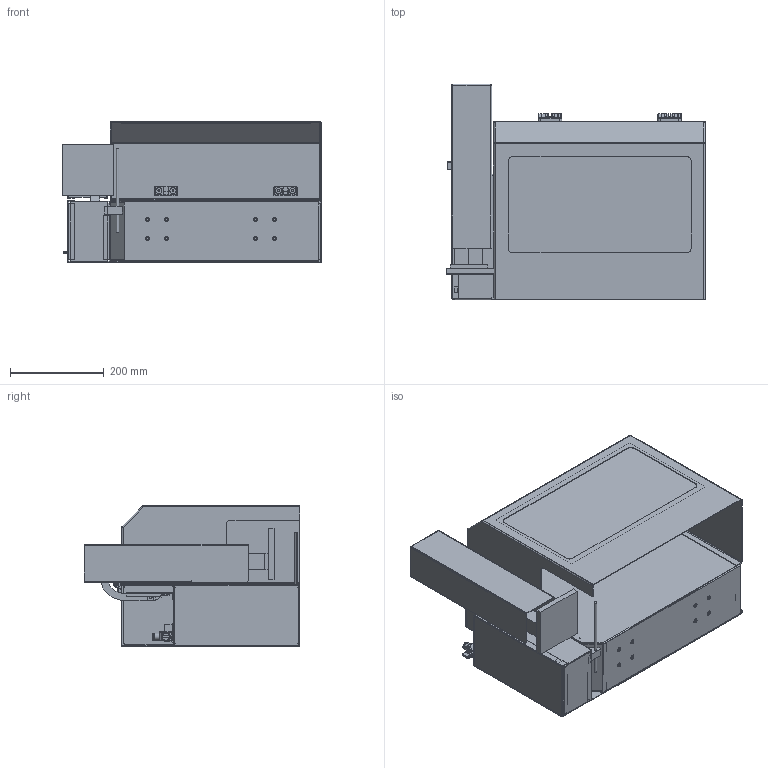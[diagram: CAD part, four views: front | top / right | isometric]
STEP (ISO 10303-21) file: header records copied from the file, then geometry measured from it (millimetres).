
FILE_DESCRIPTION (( 'STEP AP203' ), '1' );
FILE_NAME ('400A(100mm俴最泂梓旋).STEP', '2019-02-11T02:06:42', ( '' ), ( '' ), 'SwSTEP 2.0', 'SolidWorks 2017', '' );
FILE_SCHEMA (( 'CONFIG_CONTROL_DESIGN' ));
Length unit declared in the file: millimetre
Products named in the file (1): 400A(100mm俴最泂梓旋)
Bounding box: 553 x 460 x 300.5 mm (x, y, z)
Volume: 2515687 mm3; surface area: 2687143.1 mm2
Topology: 59 solids, 59 shells, 2149 faces, 5478 edges, 3562 vertices
Faces by surface type: plane 1135, cylinder 850, cone 128, bspline 36
Entity records: 66752 total; most frequent: CARTESIAN_POINT 13610, DIRECTION 11211, ORIENTED_EDGE 10932, EDGE_CURVE 5466, AXIS2_PLACEMENT_3D 3955, VERTEX_POINT 3562, LINE 3301, VECTOR 3301
